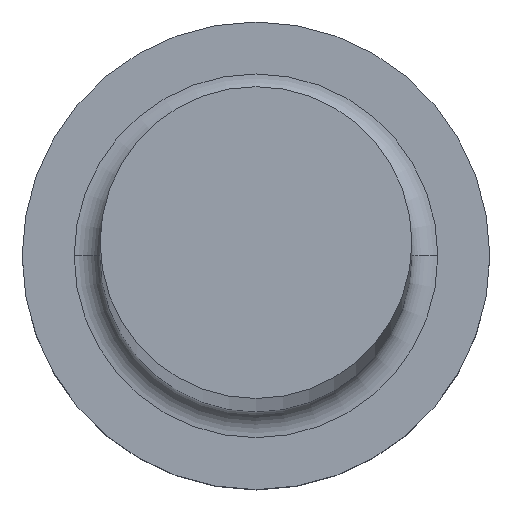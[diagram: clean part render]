
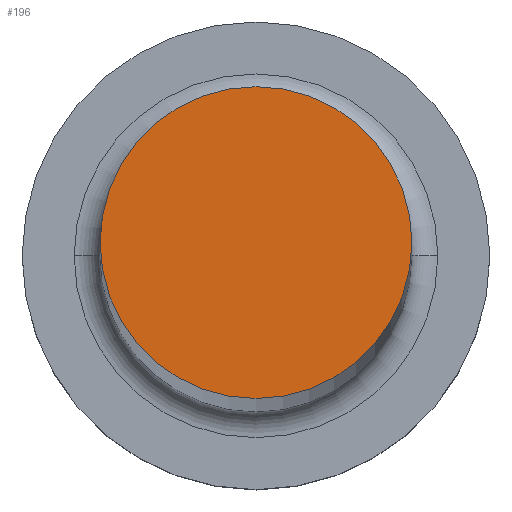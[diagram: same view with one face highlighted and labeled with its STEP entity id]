
A CAD part, top view. The second image highlights one B-rep face of the part: STEP entity #196.
In plain terms, the highlighted planar face has unit normal (0, 0, 1).
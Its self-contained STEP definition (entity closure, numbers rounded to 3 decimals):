
#22 = AXIS2_PLACEMENT_3D ( 'NONE', #187, #126, #172 ) ;
#32 = DIRECTION ( 'NONE',  ( 0., 0., -1. ) ) ;
#35 = PLANE ( 'NONE',  #22 ) ;
#45 = DIRECTION ( 'NONE',  ( -1., 0., 0. ) ) ;
#47 = VERTEX_POINT ( 'NONE', #165 ) ;
#60 = DIRECTION ( 'NONE',  ( -1., 0., 0. ) ) ;
#74 = AXIS2_PLACEMENT_3D ( 'NONE', #248, #193, #45 ) ;
#85 = EDGE_CURVE ( 'NONE', #235, #47, #151, .T. ) ;
#88 = ORIENTED_EDGE ( 'NONE', *, *, #271, .F. ) ;
#124 = FACE_OUTER_BOUND ( 'NONE', #169, .T. ) ;
#126 = DIRECTION ( 'NONE',  ( 0., 0., -1. ) ) ;
#149 = AXIS2_PLACEMENT_3D ( 'NONE', #170, #32, #60 ) ;
#151 = CIRCLE ( 'NONE', #149, 3. ) ;
#165 = CARTESIAN_POINT ( 'NONE',  ( 3., 0., 150. ) ) ;
#169 = EDGE_LOOP ( 'NONE', ( #267, #88 ) ) ;
#170 = CARTESIAN_POINT ( 'NONE',  ( 0., 0., 150. ) ) ;
#172 = DIRECTION ( 'NONE',  ( -1., 0., 0. ) ) ;
#187 = CARTESIAN_POINT ( 'NONE',  ( 0., 0., 150. ) ) ;
#193 = DIRECTION ( 'NONE',  ( 0., 0., -1. ) ) ;
#196 = ADVANCED_FACE ( 'NONE', ( #124 ), #35, .F. ) ;
#202 = CIRCLE ( 'NONE', #74, 3. ) ;
#235 = VERTEX_POINT ( 'NONE', #268 ) ;
#248 = CARTESIAN_POINT ( 'NONE',  ( 0., 0., 150. ) ) ;
#267 = ORIENTED_EDGE ( 'NONE', *, *, #85, .F. ) ;
#268 = CARTESIAN_POINT ( 'NONE',  ( -3., 0., 150. ) ) ;
#271 = EDGE_CURVE ( 'NONE', #47, #235, #202, .T. ) ;
